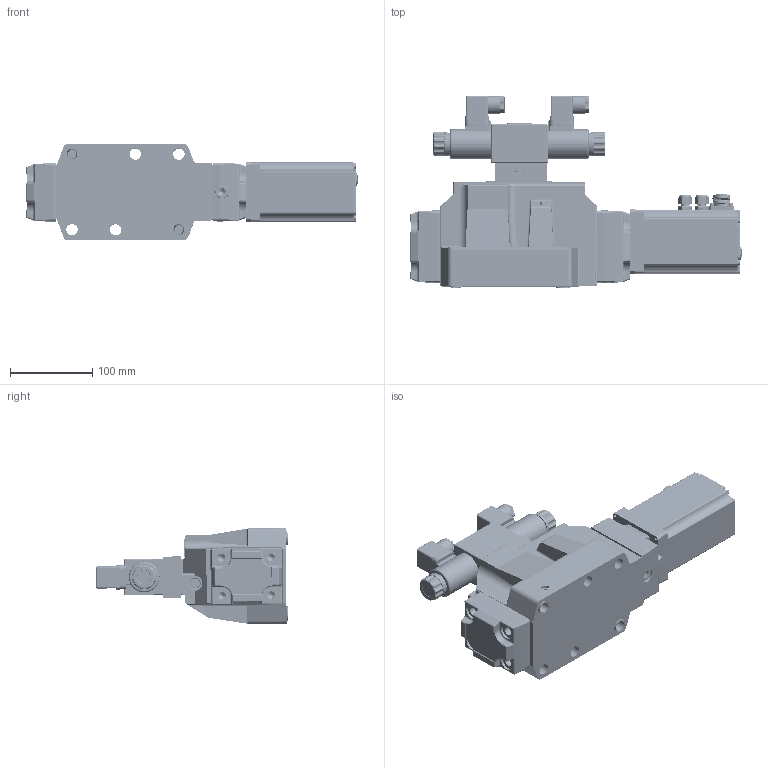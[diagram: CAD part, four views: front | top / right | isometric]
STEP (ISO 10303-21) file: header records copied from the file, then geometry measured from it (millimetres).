
FILE_DESCRIPTION(/* description */ (''),/* implementation_level */ '2;1');
FILE_NAME(/* name */ '4WRKE25.stp',/* time_stamp */ '2023-06-01T16:29:05+08:00',/* author */ (''),/* organization */ (''),/* preprocessor_version */ 'ST-DEVELOPER v16.7',/* originating_system */ 'SIEMENS PLM Software NX 12.0',/* authorisation */ '');
FILE_SCHEMA (('AUTOMOTIVE_DESIGN { 1 0 10303 214 3 1 1 1 }'));
Products named in the file (1): 4WRKE25
Bounding box: 403.98 x 234.27 x 117.38 mm (x, y, z)
Volume: 1078517.4 mm3; surface area: 634415.3 mm2
Topology: 72 solids, 80 shells, 5451 faces, 14548 edges, 9376 vertices
Faces by surface type: plane 2121, cylinder 1628, extrusion 648, bspline 358, cone 287, torus 205, sphere 155, revolution 49
Full cylindrical faces by diameter (mm): 1.5 x7, 1.8 x6, 2 x6, 2.5 x20, 3 x5, 3.2 x60, 3.242 x13, 3.3 x4, 3.5 x5, 4.2 x34, 4.7 x2, 5 x17, 5.3 x4, 5.4 x4, 5.5 x9, 6 x8, 6.5 x3, 6.8 x1, 7 x14, 7.4 x3, 7.8 x1, 8 x8, 8.2 x1, 8.5 x101, 9 x3, 9.4 x4, 9.81 x4, 10 x4, 10.106 x11, 10.5 x4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
Entity records: 332694 total; most frequent: CARTESIAN_POINT 200531, ORIENTED_EDGE 24728, DIRECTION 21335, EDGE_CURVE 12364, VERTEX_POINT 8236, AXIS2_PLACEMENT_3D 7432, VECTOR 6422, EDGE_LOOP 6212
